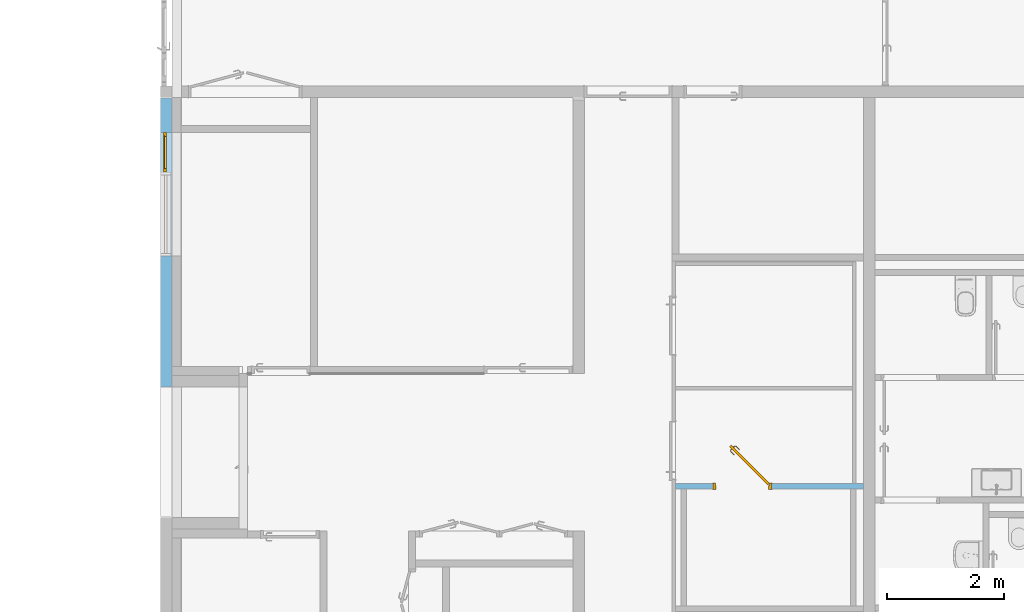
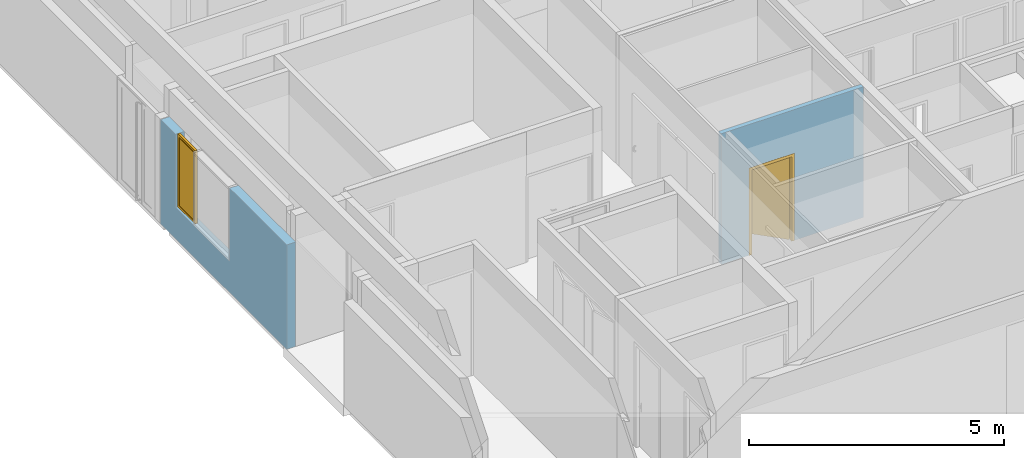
# One storey, part 199 of 240: 1 door, 1 window, 4 openings, plus 2 elements that do not belong to this part.
"""IFC2X3 building model written with IfcOpenShell, lengths in centimetres."""

from ifc_helpers import new_model, entity, si_unit, converted_unit, derived_unit, direction, frame, frame_2d, origin, place, context, subcontext, project, spatial, rectangle, extrude, faceted_brep, source, transform, mapped, material, material_list, layer, layer_set, layer_usage, type_object, type_shapes, element, fill, save


model = new_model("IFC2X3")

# Units and contexts
model_context = context("Model", 3, precision=0.001, world=origin(), true_north=direction((6.12303176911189e-17, 1.0)))
body_context = subcontext(model_context, "Body", "Model", "MODEL_VIEW")
ifc_project = project(units=[si_unit("LENGTHUNIT", "METRE", prefix="CENTI"), si_unit("AREAUNIT", "SQUARE_METRE"), si_unit("VOLUMEUNIT", "CUBIC_METRE"), converted_unit("PLANEANGLEUNIT", "DEGREE", entity("IfcRatioMeasure", 0.0174532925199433), si_unit("PLANEANGLEUNIT", "RADIAN"), dimensions=[0, 0, 0, 0, 0, 0, 0]), si_unit("MASSUNIT", "GRAM", prefix="KILO"), derived_unit("MASSDENSITYUNIT", [(si_unit("MASSUNIT", "GRAM", prefix="KILO"), 1), (si_unit("LENGTHUNIT", "METRE"), -3)]), si_unit("TIMEUNIT", "SECOND"), si_unit("FREQUENCYUNIT", "HERTZ"), si_unit("THERMODYNAMICTEMPERATUREUNIT", "DEGREE_CELSIUS"), derived_unit("THERMALTRANSMITTANCEUNIT", [(si_unit("MASSUNIT", "GRAM", prefix="KILO"), 1), (si_unit("THERMODYNAMICTEMPERATUREUNIT", "KELVIN"), -1), (si_unit("TIMEUNIT", "SECOND"), -3)]), derived_unit("VOLUMETRICFLOWRATEUNIT", [(si_unit("LENGTHUNIT", "METRE"), 3), (si_unit("TIMEUNIT", "SECOND"), -1)]), si_unit("ELECTRICCURRENTUNIT", "AMPERE"), si_unit("ELECTRICVOLTAGEUNIT", "VOLT"), si_unit("POWERUNIT", "WATT"), si_unit("FORCEUNIT", "NEWTON", prefix="KILO"), si_unit("ILLUMINANCEUNIT", "LUX"), si_unit("LUMINOUSFLUXUNIT", "LUMEN"), si_unit("LUMINOUSINTENSITYUNIT", "CANDELA"), derived_unit("USERDEFINED", [(si_unit("MASSUNIT", "GRAM", prefix="KILO"), -1), (si_unit("LENGTHUNIT", "METRE"), -2), (si_unit("TIMEUNIT", "SECOND"), 3), (si_unit("LUMINOUSFLUXUNIT", "LUMEN"), 1)]), derived_unit("LINEARVELOCITYUNIT", [(si_unit("LENGTHUNIT", "METRE"), 1), (si_unit("TIMEUNIT", "SECOND"), -1)]), si_unit("PRESSUREUNIT", "PASCAL"), derived_unit("USERDEFINED", [(si_unit("LENGTHUNIT", "METRE"), -2), (si_unit("MASSUNIT", "GRAM", prefix="KILO"), 1), (si_unit("TIMEUNIT", "SECOND"), -2)])], contexts=[model_context])

# Site, building, storey
site_placement = place(None, frame((-2781.94577612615, 7442.24238424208, 0.0)))
site = spatial("IfcSite", under=ifc_project, at=site_placement, Name="Default", CompositionType="ELEMENT")
building_placement = place(site_placement, origin())
building = spatial("IfcBuilding", under=site, at=building_placement, CompositionType="ELEMENT")
storey_placement = place(building_placement, origin())
storey = spatial("IfcBuildingStorey", under=building, at=storey_placement, Name="N00 - COO", CompositionType="ELEMENT", Elevation=0.0)

# Wall, openings, window
ifc_material_1 = material(Name="01 - Maçonnerie")
ifc_layer_1 = layer(ifc_material_1, 20.0)
ifc_layer_set_1 = layer_set([ifc_layer_1], Name="Mur de base:04 - Structure - béton - 20cm")
ifc_layer_usage_1 = layer_usage(ifc_layer_set_1, "AXIS2", "NEGATIVE", 10.0)
wall_type_1 = type_object("IfcWallType", Name="Mur de base:04 - Structure - béton - 20cm", PredefinedType="STANDARD", material=ifc_layer_set_1)
wall_1_placement = place(building_placement, frame((-10891.6130476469, -1931.38903364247, 0.0), z_axis=(0.0, 0.0, 1.0), x_axis=(0.0, -1.0, 0.0)))
wall_1 = element("IfcWallStandardCase", 1, at=wall_1_placement, inside=storey, type_object=wall_type_1, material=ifc_layer_usage_1, Name="Mur de base:04 - Structure - béton - 20cm", ObjectType="Mur de base:04 - Structure - béton - 20cm", context=body_context, shape_type="SweptSolid", body=[
    extrude(rectangle(XDim=494.990000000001, YDim=19.9999999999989, at=frame_2d((247.495, 1.77635683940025e-14), x_axis=(-1.0, 0.0))), origin(), (0.0, 0.0, 1.0), 250.0),
])
opening_1_placement = place(wall_1_placement, origin())
element("IfcOpeningElement", 2, at=opening_1_placement, cuts=wall_1, Name="Mur de base:04 - Structure - béton - 20cm", ObjectType="Opening", context=body_context, shape_type="SweptSolid", body=[
    extrude(rectangle(XDim=175.0, YDim=144.0, at=frame_2d((-2.8421709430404e-14, 0.0), x_axis=(1.0, 0.0))), frame((198.690000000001, -25.2400000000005, 162.5), z_axis=(0.0, 1.0, 0.0), x_axis=(0.0, 0.0, 1.0)), (0.0, 0.0, 1.0), 50.4800000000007),
])
opening_2_placement = place(wall_1_placement, origin())
element("IfcOpeningElement", 3, at=opening_2_placement, cuts=wall_1, Name="Mur de base:04 - Structure - béton - 20cm", ObjectType="Opening", context=body_context, shape_type="SweptSolid", body=[
    extrude(rectangle(XDim=265.0, YDim=149.999999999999, at=frame_2d((0.0, -1.06581410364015e-13), x_axis=(1.0, 0.0))), frame((-96.3495168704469, -10.0999999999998, 117.5), z_axis=(0.0, 1.0, 0.0), x_axis=(0.0, 0.0, -1.0)), (0.0, 0.0, 1.0), 61.2999999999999),
])
opening_3_placement = place(wall_1_placement, frame((126.690000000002, 10.0, 75.0)))
opening_3 = element("IfcOpeningElement", 4, at=opening_3_placement, cuts=wall_1, Name="Ouvrant vitré:Ouvrant vitré 175mm:1", ObjectType="Opening", context=body_context, shape_type="SweptSolid", body=[
    extrude(rectangle(XDim=175.0, YDim=68.0000000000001, at=frame_2d((87.4999999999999, 34.0000000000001), x_axis=(1.0, 0.0))), frame((0.0, 0.0, 0.0), z_axis=(0.0, -1.0, 0.0), x_axis=(0.0, 0.0, 1.0)), (0.0, 0.0, 1.0), 20.0),
])
ifc_material_2 = material(Name="Verre")
ifc_material_3 = material(Name="Aluminium")
ifc_material_list_1 = material_list([ifc_material_2, ifc_material_3])
ifc_material_list_2 = material_list([ifc_material_2, ifc_material_3])
window_style = type_object("IfcWindowStyle", Name="Ouvrant vitré 175mm", ConstructionType="NOTDEFINED", OperationType="NOTDEFINED", ParameterTakesPrecedence=False, Sizeable=False, material=ifc_material_list_2)
shared_shape_1 = source(origin(), body_context, "Body", "Brep", [
    faceted_brep([(6.50000000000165, 15.2499999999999, 168.5), (61.5000000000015, 15.25, 168.5), (61.5000000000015, 15.25, 6.49999999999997), (6.50000000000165, 15.2499999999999, 6.49999999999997), (6.50000000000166, 13.2499999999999, 6.49999999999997), (6.50000000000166, 13.2499999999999, 168.5), (61.5000000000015, 13.25, 6.49999999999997), (61.5000000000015, 13.25, 168.5)], [[[0, 1, 2, 3]], [[3, 4, 5, 0]], [[2, 6, 4, 3]], [[1, 7, 6, 2]], [[5, 4, 6, 7]], [[0, 5, 7, 1]]]),
    faceted_brep([(6.5000000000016, 13.4999999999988, 168.5), (6.5000000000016, 13.4999999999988, 6.50000000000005), (61.5000000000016, 13.4999999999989, 6.50000000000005), (61.5000000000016, 13.4999999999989, 168.5), (3.5000000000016, 13.4999999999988, 171.5), (64.5000000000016, 13.499999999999, 171.5), (64.5000000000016, 13.499999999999, 3.50000000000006), (3.5000000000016, 13.4999999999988, 3.50000000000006), (3.50000000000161, 10.0, 3.50000000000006), (3.50000000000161, 10.0, 171.5), (64.5000000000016, 10.0, 3.50000000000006), (64.5000000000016, 10.0, 171.5), (61.5000000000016, 10.0, 6.50000000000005), (61.5000000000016, 10.0, 168.5), (6.50000000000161, 10.0, 6.50000000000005), (6.50000000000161, 10.0, 168.5)], [[[0, 1, 2, 3], [4, 5, 6, 7]], [[7, 8, 9, 4]], [[6, 10, 8, 7]], [[5, 11, 10, 6]], [[2, 12, 13, 3]], [[1, 14, 12, 2]], [[0, 15, 14, 1]], [[9, 8, 10, 11], [15, 13, 12, 14]], [[4, 9, 11, 5]], [[3, 13, 15, 0]]], outer=[[False, True], [True], [True], [True], [True], [True], [True], [True, False], [True], [True]]),
    faceted_brep([(5.0, 13.5, 170.0), (5.0, 13.5, 5.0), (5.0, 15.0, 5.0), (5.0, 15.0, 170.0), (63.0, 15.0, 5.0), (63.0, 15.0, 170.0), (0.0, 15.0, 0.0), (0.0, 15.0, 175.0), (68.0, 15.0, 175.0), (68.0, 15.0, 0.0), (63.0, 13.5000000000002, 5.0), (63.0, 13.5000000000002, 170.0), (3.50000000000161, 13.5, 171.5), (3.50000000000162, 13.5, 3.50000000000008), (64.5000000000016, 13.5000000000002, 3.50000000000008), (64.5000000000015, 13.5000000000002, 171.5), (3.50000000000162, 10.0, 171.5), (3.50000000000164, 10.0, 3.50000000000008), (64.5000000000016, 10.0, 3.5000000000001), (64.5000000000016, 10.0, 171.5), (0.0, 10.0, 175.0), (0.0, 10.0, 0.0), (68.0, 10.0, 0.0), (68.0, 10.0, 175.0)], [[[0, 1, 2, 3]], [[3, 2, 4, 5], [6, 7, 8, 9]], [[1, 10, 4, 2]], [[1, 0, 11, 10], [12, 13, 14, 15]], [[16, 17, 13, 12]], [[17, 18, 14, 13]], [[17, 16, 19, 18], [20, 21, 22, 23]], [[7, 6, 21, 20]], [[6, 9, 22, 21]], [[10, 11, 5, 4]], [[18, 19, 15, 14]], [[9, 8, 23, 22]], [[11, 0, 3, 5]], [[19, 16, 12, 15]], [[8, 7, 20, 23]]], outer=[[True], [False, True], [True], [False, True], [True], [True], [False, True], [True], [True], [True], [True], [True], [True], [True], [True]]),
])
type_shapes(window_style, [shared_shape_1])
window_placement = place(opening_3_placement, frame((0.0, 0.0, 0.0), z_axis=(0.0, 0.0, 1.0), x_axis=(-1.0, 0.0, 0.0)))
window = element("IfcWindow", 5, at=window_placement, inside=storey, type_object=window_style, material=ifc_material_list_1, Name="Ouvrant vitré:Ouvrant vitré 175mm", ObjectType="Ouvrant vitré:Ouvrant vitré 175mm", OverallHeight=175.0, OverallWidth=68.0000000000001, context=body_context, shape_type="MappedRepresentation", body=[
    mapped(shared_shape_1, transform((0.0, 0.0, 0.0), scale=1.0)),
])
fill(opening_3, window)

# Wall, opening, door
ifc_material_4 = material(Name="Plastique, blanc opaque")
ifc_layer_2 = layer(ifc_material_4, 0.2)
ifc_material_5 = material(Name="00 - Isolant cloison Frigo")
ifc_layer_3 = layer(ifc_material_5, 9.6)
ifc_layer_4 = layer(ifc_material_4, 0.2)
ifc_layer_set_2 = layer_set([ifc_layer_2, ifc_layer_3, ifc_layer_4], Name="Mur de base:06 - cloisons - cuisine 10cm")
ifc_layer_usage_2 = layer_usage(ifc_layer_set_2, "AXIS2", "NEGATIVE", 5.0)
wall_type_2 = type_object("IfcWallType", Name="Mur de base:06 - cloisons - cuisine 10cm", PredefinedType="STANDARD", material=ifc_layer_set_2)
wall_2_placement = place(storey_placement, frame((-10018.8417569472, -2596.28653613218, 0.0)))
wall_2 = element("IfcWallStandardCase", 6, at=wall_2_placement, inside=storey, type_object=wall_type_2, material=ifc_layer_usage_2, Name="Mur de base:06 - cloisons - cuisine 10cm", ObjectType="Mur de base:06 - cloisons - cuisine 10cm", context=body_context, shape_type="SweptSolid", body=[
    extrude(rectangle(XDim=321.841759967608, YDim=10.0000000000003, at=frame_2d((160.920879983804, -1.33226762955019e-15), x_axis=(-1.0, 0.0))), origin(), (0.0, 0.0, 1.0), 313.000000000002),
])
opening_4_placement = place(wall_2_placement, frame((64.3925730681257, -5.0, 0.0)))
opening_4 = element("IfcOpeningElement", 7, at=opening_4_placement, cuts=wall_2, Name="Int. Simple:PP ISOTHERME  (0.93m x 2.04m):1", ObjectType="Opening", context=body_context, shape_type="SweptSolid", body=[
    extrude(rectangle(XDim=207.5, YDim=99.9999999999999, at=frame_2d((103.75, 50.0), x_axis=(1.0, 0.0))), frame((0.0, 0.0, 0.0), z_axis=(0.0, 1.0, 0.0), x_axis=(0.0, 0.0, 1.0)), (0.0, 0.0, 1.0), 10.0),
])
ifc_material_6 = material(Name="Finition Peinture - Blanc satiné")
ifc_material_7 = material(Name="Bois - Panneau de porte")
ifc_material_8 = material(Name="Bois - Cadre de porte")
ifc_material_list_3 = material_list([ifc_material_6, ifc_material_7, ifc_material_8])
ifc_material_list_4 = material_list([ifc_material_6, ifc_material_7, ifc_material_8])
door_style = type_object("IfcDoorStyle", Name="PP ISOTHERME  (0.93m x 2.04m)", ConstructionType="NOTDEFINED", OperationType="SINGLE_SWING_RIGHT", ParameterTakesPrecedence=False, Sizeable=False, material=ifc_material_list_4)
shared_shape_2 = source(origin(), body_context, "Body", "Brep", [
    faceted_brep([(73.0789501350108, -63.286056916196, 87.0), (73.0789501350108, -63.286056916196, 108.0), (72.3967873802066, -62.6038941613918, 108.399601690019), (71.6647365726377, -61.871843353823, 108.535898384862), (70.9326857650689, -61.1397925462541, 108.399601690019), (70.2505230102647, -60.4576297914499, 108.0), (70.2505230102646, -60.4576297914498, 87.0), (70.9326857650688, -61.139792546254, 86.6003983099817), (71.6647365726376, -61.8718433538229, 86.464101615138), (72.3967873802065, -62.6038941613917, 86.6003983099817), (73.4325035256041, -62.9325035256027, 108.0), (73.432503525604, -62.9325035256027, 87.0), (72.7503407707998, -62.2503407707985, 86.6003983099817), (72.0182899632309, -61.5182899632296, 86.464101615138), (71.286239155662, -60.7862391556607, 86.6003983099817), (70.6040764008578, -60.1040764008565, 87.0), (70.6040764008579, -60.1040764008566, 108.0), (71.2862391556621, -60.7862391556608, 108.399601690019), (72.018289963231, -61.5182899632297, 108.535898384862), (72.7503407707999, -62.2503407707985, 108.399601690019)], [[[0, 1, 2, 3, 4, 5, 6, 7, 8, 9]], [[10, 11, 12, 13, 14, 15, 16, 17, 18, 19]], [[9, 12, 11, 0]], [[8, 13, 12, 9]], [[7, 14, 13, 8]], [[7, 6, 15, 14]], [[15, 6, 5, 16]], [[4, 17, 16, 5]], [[3, 18, 17, 4]], [[2, 19, 18, 3]], [[2, 1, 10, 19]], [[11, 10, 1, 0]]]),
    faceted_brep([(76.2609306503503, -60.1040764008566, 87.0), (76.2609306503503, -60.1040764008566, 108.0), (75.5787678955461, -59.4219136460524, 108.399601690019), (74.8467170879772, -58.6898628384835, 108.535898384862), (74.1146662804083, -57.9578120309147, 108.399601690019), (73.4325035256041, -57.2756492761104, 108.0), (73.432503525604, -57.2756492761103, 87.0), (74.1146662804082, -57.9578120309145, 86.6003983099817), (74.8467170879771, -58.6898628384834, 86.464101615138), (75.578767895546, -59.4219136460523, 86.6003983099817), (75.2002704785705, -58.3363094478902, 108.535898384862), (75.9323212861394, -59.0683602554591, 108.399601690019), (76.6144840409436, -59.7505230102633, 108.0), (76.6144840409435, -59.7505230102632, 87.0), (75.9323212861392, -59.068360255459, 86.6003983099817), (75.2002704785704, -58.3363094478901, 86.464101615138), (74.4682196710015, -57.6042586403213, 86.6003983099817), (73.7860569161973, -56.9220958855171, 87.0), (73.7860569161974, -56.9220958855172, 108.0), (74.4682196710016, -57.6042586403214, 108.399601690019)], [[[0, 1, 2, 3, 4, 5, 6, 7, 8, 9]], [[10, 11, 12, 13, 14, 15, 16, 17, 18, 19]], [[4, 19, 18, 5]], [[3, 10, 19, 4]], [[2, 11, 10, 3]], [[2, 1, 12, 11]], [[13, 12, 1, 0]], [[9, 14, 13, 0]], [[8, 15, 14, 9]], [[7, 16, 15, 8]], [[7, 6, 17, 16]], [[17, 6, 5, 18]]]),
    faceted_brep([(71.5215263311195, -61.7286331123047, 100.778044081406), (71.8079468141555, -62.0150535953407, 100.778044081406), (72.0890006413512, -62.2961074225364, 100.699999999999), (72.0890006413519, -62.2961074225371, 99.2999999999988), (71.8079468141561, -62.0150535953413, 99.221955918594), (71.5215263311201, -61.7286331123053, 99.2219559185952), (71.2404725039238, -61.4475792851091, 99.3000000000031), (71.2404725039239, -61.4475792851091, 100.7), (69.9691456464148, -63.8538547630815, 100.778044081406), (70.1337831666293, -64.2513248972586, 100.7), (69.8013644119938, -63.4487950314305, 100.778044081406), (67.8672719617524, -63.4487950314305, 100.778044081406), (67.6994907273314, -63.8538547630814, 100.778044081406), (69.6367268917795, -63.0513248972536, 100.7), (69.6367268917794, -63.0513248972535, 99.3000000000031), (69.8013644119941, -63.4487950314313, 99.2219559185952), (69.9691456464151, -63.8538547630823, 99.221955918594), (67.6994907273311, -63.8538547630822, 99.221955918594), (67.8672719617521, -63.4487950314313, 99.2219559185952), (70.1337831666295, -64.2513248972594, 99.2999999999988), (67.5348532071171, -64.2513248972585, 100.7), (68.0319094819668, -63.0513248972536, 100.7), (68.0319094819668, -63.0513248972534, 99.3000000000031), (67.5348532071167, -64.2513248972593, 99.2999999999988), (61.3376682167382, -58.0541399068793, 100.7), (61.6187220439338, -57.7730860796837, 100.778044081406), (61.9051425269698, -57.4866655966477, 100.778044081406), (62.1861963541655, -57.205611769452, 100.699999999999), (62.1861963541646, -57.2056117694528, 99.3000000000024), (61.9051425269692, -57.4866655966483, 99.2219559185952), (61.6187220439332, -57.7730860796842, 99.221955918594), (61.3376682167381, -58.0541399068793, 99.2999999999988), (64.7429970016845, -60.6109405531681, 100.78786867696), (64.7113413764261, -61.4278130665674, 100.7), (65.1090529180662, -60.1284683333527, 100.7), (65.1090529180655, -60.1284683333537, 99.3000000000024), (64.742997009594, -60.6109405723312, 99.2121313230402), (64.7113419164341, -61.427813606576, 99.2999999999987)], [[[0, 1, 2, 3, 4, 5, 6, 7]], [[2, 1, 8, 9]], [[1, 0, 10, 11, 12, 8]], [[0, 7, 13, 10]], [[14, 13, 7, 6]], [[5, 15, 14, 6]], [[5, 4, 16, 17, 18, 15]], [[3, 19, 16, 4]], [[9, 19, 3, 2]], [[9, 8, 12, 20]], [[10, 13, 21, 11]], [[22, 21, 13, 14]], [[14, 15, 18, 22]], [[16, 19, 23, 17]], [[20, 23, 19, 9]], [[24, 25, 26, 27, 28, 29, 30, 31]], [[32, 25, 33]], [[33, 25, 24]], [[33, 20, 12]], [[11, 34, 32]], [[34, 11, 21]], [[27, 26, 34]], [[32, 26, 25]], [[32, 34, 26]], [[32, 33, 12]], [[11, 32, 12]], [[21, 22, 35, 28, 27, 34]], [[36, 29, 35]], [[30, 36, 37]], [[18, 35, 22]], [[29, 28, 35]], [[30, 37, 31]], [[37, 17, 23]], [[36, 17, 37]], [[36, 18, 17]], [[36, 35, 18]], [[29, 36, 30]], [[23, 20, 33, 24, 31, 37]]]),
    faceted_brep([(75.0570602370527, -58.1930992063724, 99.2219559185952), (75.3434807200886, -58.4795196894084, 99.221955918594), (75.6245345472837, -58.7605735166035, 99.2999999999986), (75.6245345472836, -58.7605735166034, 100.7), (75.343480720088, -58.4795196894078, 100.778044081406), (75.057060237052, -58.1930992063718, 100.778044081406), (74.7760064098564, -57.9120453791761, 100.7), (74.7760064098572, -57.912045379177, 99.3000000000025), (76.3659504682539, -56.3221013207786, 100.7), (76.3659504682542, -56.3221013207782, 99.3000000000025), (76.7634206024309, -56.4867388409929, 100.778044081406), (77.1684803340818, -56.6545200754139, 100.778044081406), (77.1684803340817, -54.3654184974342, 100.778044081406), (76.7634206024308, -54.5331997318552, 100.778044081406), (77.5659504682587, -56.8191575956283, 100.7), (77.5659504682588, -56.8191575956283, 99.2999999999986), (77.1684803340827, -56.6545200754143, 99.221955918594), (76.7634206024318, -56.4867388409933, 99.2219559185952), (76.7634206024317, -54.5331997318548, 99.2219559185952), (77.1684803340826, -54.3654184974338, 99.221955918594), (76.3659504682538, -54.6978372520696, 100.7), (76.3659504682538, -54.697837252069, 99.3000000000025), (77.5659504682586, -54.2007809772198, 100.7), (77.5659504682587, -54.2007809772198, 99.2999999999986), (70.8090951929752, -48.5788743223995, 100.778044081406), (71.0955156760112, -48.2924538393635, 100.778044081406), (71.3765695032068, -48.0114000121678, 100.7), (71.3765695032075, -48.0114000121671, 99.2999999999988), (71.0955156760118, -48.2924538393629, 99.221955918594), (70.8090951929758, -48.5788743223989, 99.2219559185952), (70.5280413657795, -48.8599281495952, 99.3000000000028), (70.5280413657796, -48.8599281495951, 100.7), (73.4469959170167, -51.7788827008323, 100.7), (73.4469967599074, -51.7788835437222, 99.3000000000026), (73.9294681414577, -51.412826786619, 100.78786867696), (74.7424386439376, -51.3772691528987, 100.7), (74.7424387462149, -51.3772692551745, 99.2999999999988), (73.9294681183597, -51.4128267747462, 99.2121313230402)], [[[0, 1, 2, 3, 4, 5, 6, 7]], [[8, 9, 7, 6]], [[5, 10, 8, 6]], [[5, 4, 11, 12, 13, 10]], [[3, 14, 11, 4]], [[14, 3, 2, 15]], [[2, 1, 16, 15]], [[1, 0, 17, 18, 19, 16]], [[0, 7, 9, 17]], [[20, 21, 9, 8]], [[8, 10, 13, 20]], [[14, 22, 12, 11]], [[23, 22, 14, 15]], [[15, 16, 19, 23]], [[17, 9, 21, 18]], [[24, 25, 26, 27, 28, 29, 30, 31]], [[21, 20, 32, 31, 30, 33]], [[34, 24, 32]], [[25, 34, 35]], [[13, 32, 20]], [[24, 31, 32]], [[25, 35, 26]], [[35, 12, 22]], [[34, 12, 35]], [[34, 13, 12]], [[34, 32, 13]], [[24, 34, 25]], [[22, 23, 36, 27, 26, 35]], [[37, 28, 36]], [[36, 28, 27]], [[36, 23, 19]], [[18, 33, 37]], [[33, 18, 21]], [[30, 29, 33]], [[37, 29, 28]], [[37, 33, 29]], [[37, 36, 19]], [[18, 37, 19]]]),
    faceted_brep([(79.0893577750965, -62.9325035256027, 204.0), (79.0893577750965, -62.9325035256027, 0.0), (13.3284271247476, 2.82842712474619, 0.0), (13.3284271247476, 2.82842712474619, 204.0), (76.2609306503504, -65.7609306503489, 204.0), (10.5000000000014, 0.0, 204.0), (10.5000000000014, 0.0, 0.0), (76.2609306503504, -65.7609306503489, 0.0)], [[[0, 1, 2, 3]], [[4, 5, 6, 7]], [[3, 5, 4, 0]], [[2, 6, 5, 3]], [[1, 7, 6, 2]], [[0, 4, 7, 1]]]),
    faceted_brep([(107.0, 10.0, 0.0), (107.0, 0.0, 0.0), (108.500000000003, 0.0, 0.0), (108.500000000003, -0.500000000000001, 0.0), (103.500000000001, -0.500000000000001, 0.0), (103.500000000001, 4.0, 0.0), (102.0, 4.0, 0.0), (102.0, 10.5000000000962, 0.0), (108.500000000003, 10.5000000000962, 0.0), (108.500000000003, 10.0, 0.0), (108.500000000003, 10.0, 209.0), (5.49999999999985, 10.0, 209.0), (5.49999999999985, 10.0, 0.0), (7.0, 10.0, 0.0), (7.0, 10.0, 207.500000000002), (107.0, 10.0, 207.500000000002), (108.500000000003, 10.5000000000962, 209.0), (102.0, 10.5000000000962, 202.5), (12.0, 10.5000000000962, 202.5), (12.0, 10.5000000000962, 0.0), (5.49999999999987, 10.5000000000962, 0.0), (5.49999999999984, 10.5000000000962, 209.0), (102.0, 4.0, 202.5), (103.500000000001, 4.0, 204.0), (10.5000000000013, 4.0, 204.0), (10.5000000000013, 4.0, 0.0), (12.0, 4.0, 0.0), (12.0, 4.0, 202.5), (103.500000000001, -0.500000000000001, 204.0), (108.500000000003, -0.500000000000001, 209.0), (5.49999999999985, -0.500000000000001, 209.0), (5.49999999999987, -0.500000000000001, 0.0), (10.5000000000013, -0.500000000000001, 0.0), (10.5000000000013, -0.500000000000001, 204.0), (108.500000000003, 0.0, 209.0), (107.0, 0.0, 207.500000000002), (7.0, 0.0, 207.500000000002), (7.0, 0.0, 0.0), (5.49999999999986, 0.0, 0.0), (5.49999999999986, 0.0, 209.0)], [[[0, 1, 2, 3, 4, 5, 6, 7, 8, 9]], [[9, 10, 11, 12, 13, 14, 15, 0]], [[8, 16, 10, 9]], [[7, 17, 18, 19, 20, 21, 16, 8]], [[7, 6, 22, 17]], [[5, 23, 24, 25, 26, 27, 22, 6]], [[5, 4, 28, 23]], [[3, 29, 30, 31, 32, 33, 28, 4]], [[2, 34, 29, 3]], [[1, 35, 36, 37, 38, 39, 34, 2]], [[0, 15, 35, 1]], [[14, 13, 37, 36]], [[13, 12, 20, 19, 26, 25, 32, 31, 38, 37]], [[21, 20, 12, 11]], [[27, 26, 19, 18]], [[33, 32, 25, 24]], [[39, 38, 31, 30]], [[16, 21, 11, 10]], [[22, 27, 18, 17]], [[28, 33, 24, 23]], [[34, 39, 30, 29]], [[15, 14, 36, 35]]]),
])
type_shapes(door_style, [shared_shape_2])
door_placement = place(opening_4_placement, frame((107.0, 10.0, 0.0), z_axis=(0.0, 0.0, 1.0), x_axis=(-1.0, 0.0, 0.0)))
door = element("IfcDoor", 8, at=door_placement, inside=storey, type_object=door_style, material=ifc_material_list_3, Name="Int. Simple:PP ISOTHERME  (0.93m x 2.04m)", ObjectType="Int. Simple:PP ISOTHERME  (0.93m x 2.04m)", OverallHeight=207.5, OverallWidth=99.9999999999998, context=body_context, shape_type="MappedRepresentation", body=[
    mapped(shared_shape_2, transform((0.0, 0.0, 0.0), scale=1.0)),
])
fill(opening_4, door)

save(model, "model.ifc")
